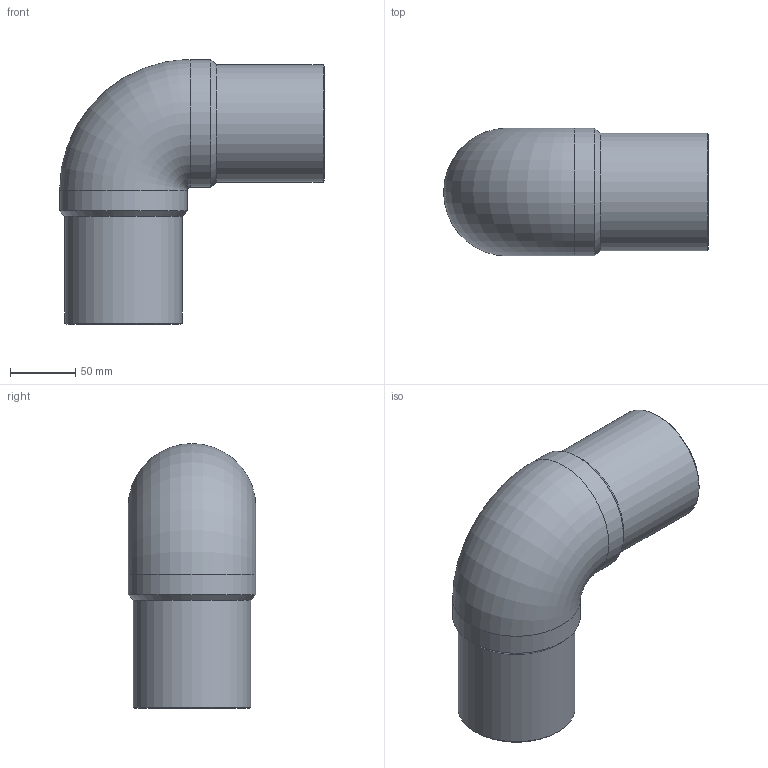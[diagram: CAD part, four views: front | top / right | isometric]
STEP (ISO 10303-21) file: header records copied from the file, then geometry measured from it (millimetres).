
FILE_DESCRIPTION(/* description */ ('Unknown'),/* implementation_level */ '2;1');
FILE_NAME(/* name */ 'G9P090H',/* time_stamp */ '2021-11-15T16:38:44+01:00',/* author */ ('Unknown'),/* organization */ ('Unknown'),/* preprocessor_version */ 'ST-DEVELOPER v16.7',/* originating_system */ 'Solid Edge',/* authorisation */ 'Unknown');
FILE_SCHEMA (('AUTOMOTIVE_DESIGN {1 0 10303 214 3 1 1}'));
Length unit declared in the file: millimetre
Products named in the file (1): G9P090H
Bounding box: 203 x 98 x 203 mm (x, y, z)
Volume: 1005389.9 mm3; surface area: 149456.4 mm2
Topology: 1 solids, 1 shells, 14 faces, 34 edges, 22 vertices
Faces by surface type: cylinder 6, cone 4, plane 2, torus 2
Full cylindrical faces by diameter (mm): 65.4 x2, 90 x2, 98 x2
Entity records: 376 total; most frequent: CARTESIAN_POINT 76, DIRECTION 60, ORIENTED_EDGE 38, AXIS2_PLACEMENT_3D 30, EDGE_LOOP 27, FACE_BOUND 27, EDGE_CURVE 19, VERTEX_POINT 18
